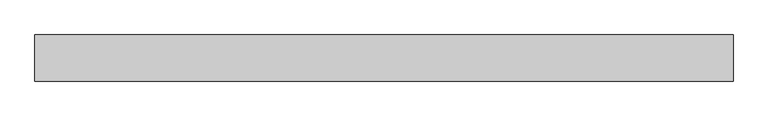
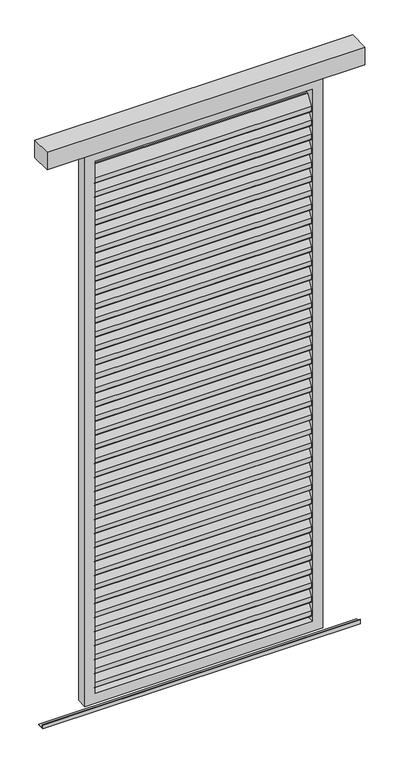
"""IFC4 building model written with IfcOpenShell, lengths in millimetres: proxy geometry."""

from ifc_helpers import new_model, si_unit, point, frame, frame_2d, origin, place, context, project, spatial, polyline, circle_curve, trimmed, segment, composite_curve, outline, extrude, source, transform, mapped, element, save


def generic_models_1648a54b(model_context):
    return source(origin(), model_context, "Body", "SweptSolid", [
        extrude(outline(polyline([(600.0, 46.0), (600.0, -34.0), (-600.0, -34.0), (-600.0, 46.0), (600.0, 46.0)])), frame((0.0, 0.0, 2250.0), z_axis=(0.0, 0.0, 1.0), x_axis=(1.0, 0.0, 0.0)), (0.0, 0.0, 1.0), 70.0),
        extrude(outline(composite_curve([segment(trimmed(circle_curve(frame_2d((12.6675921, 2173.678711)), 3.0), [point((10.1515804, 2175.3126281))], [point((15.6675921, 2173.678711))], False, "CARTESIAN"), True, "CONTINUOUS"), segment(polyline([(15.6675921, 2173.678711), (15.6675921, 2155.3179264)]), True, "CONTINUOUS"), segment(trimmed(circle_curve(frame_2d((12.6675921, 2155.3179264)), 3.0), [point((15.6675921, 2155.3179264))], [point((15.1836038, 2153.6840093))], False, "CARTESIAN"), True, "CONTINUOUS"), segment(polyline([(15.1836038, 2153.6840093), (-8.8163962, 2116.7272502)]), True, "CONTINUOUS"), segment(trimmed(circle_curve(frame_2d((-11.3324079, 2118.3611673)), 3.0), [point((-8.8163962, 2116.7272502))], [point((-14.3324079, 2118.3611673))], False, "CARTESIAN"), True, "CONTINUOUS"), segment(polyline([(-14.3324079, 2118.3611673), (-14.3324079, 2137.6105924), (10.1515804, 2175.3126281)]), True, "CONTINUOUS")], self_intersect=False)), frame((-410.0, 0.0, 0.0), z_axis=(1.0, 0.0, 0.0), x_axis=(0.0, 1.0, 0.0)), (0.0, 0.0, 1.0), 820.0),
        extrude(outline(composite_curve([segment(trimmed(circle_curve(frame_2d((12.6675921, 2117.7067127)), 3.0), [point((10.1515804, 2119.3406298))], [point((15.6675921, 2117.7067127))], False, "CARTESIAN"), True, "CONTINUOUS"), segment(polyline([(15.6675921, 2117.7067127), (15.6675921, 2099.3459282)]), True, "CONTINUOUS"), segment(trimmed(circle_curve(frame_2d((12.6675921, 2099.3459282)), 3.0), [point((15.6675921, 2099.3459282))], [point((15.1836038, 2097.7120111))], False, "CARTESIAN"), True, "CONTINUOUS"), segment(polyline([(15.1836038, 2097.7120111), (-8.8163962, 2060.7552519)]), True, "CONTINUOUS"), segment(trimmed(circle_curve(frame_2d((-11.3324079, 2062.389169)), 3.0), [point((-8.8163962, 2060.7552519))], [point((-14.3324079, 2062.389169))], False, "CARTESIAN"), True, "CONTINUOUS"), segment(polyline([(-14.3324079, 2062.389169), (-14.3324079, 2081.6385941), (10.1515804, 2119.3406298)]), True, "CONTINUOUS")], self_intersect=False)), frame((-410.0, 0.0, 0.0), z_axis=(1.0, 0.0, 0.0), x_axis=(0.0, 1.0, 0.0)), (0.0, 0.0, 1.0), 820.0),
        extrude(outline(composite_curve([segment(trimmed(circle_curve(frame_2d((12.6675921, 2061.7347145)), 3.0), [point((10.1515804, 2063.3686316))], [point((15.6675921, 2061.7347145))], False, "CARTESIAN"), True, "CONTINUOUS"), segment(polyline([(15.6675921, 2061.7347145), (15.6675921, 2043.3739299)]), True, "CONTINUOUS"), segment(trimmed(circle_curve(frame_2d((12.6675921, 2043.3739299)), 3.0), [point((15.6675921, 2043.3739299))], [point((15.1836038, 2041.7400128))], False, "CARTESIAN"), True, "CONTINUOUS"), segment(polyline([(15.1836038, 2041.7400128), (-8.8163962, 2004.7832537)]), True, "CONTINUOUS"), segment(trimmed(circle_curve(frame_2d((-11.3324079, 2006.4171708)), 3.0), [point((-8.8163962, 2004.7832537))], [point((-14.3324079, 2006.4171708))], False, "CARTESIAN"), True, "CONTINUOUS"), segment(polyline([(-14.3324079, 2006.4171708), (-14.3324079, 2025.6665958), (10.1515804, 2063.3686316)]), True, "CONTINUOUS")], self_intersect=False)), frame((-410.0, 0.0, 0.0), z_axis=(1.0, 0.0, 0.0), x_axis=(0.0, 1.0, 0.0)), (0.0, 0.0, 1.0), 820.0),
        extrude(outline(composite_curve([segment(trimmed(circle_curve(frame_2d((12.6675921, 2005.7627162)), 3.0), [point((10.1515804, 2007.3966333))], [point((15.6675921, 2005.7627162))], False, "CARTESIAN"), True, "CONTINUOUS"), segment(polyline([(15.6675921, 2005.7627162), (15.6675921, 1987.4019316)]), True, "CONTINUOUS"), segment(trimmed(circle_curve(frame_2d((12.6675921, 1987.4019316)), 3.0), [point((15.6675921, 1987.4019316))], [point((15.1836038, 1985.7680145))], False, "CARTESIAN"), True, "CONTINUOUS"), segment(polyline([(15.1836038, 1985.7680145), (-8.8163962, 1948.8112554)]), True, "CONTINUOUS"), segment(trimmed(circle_curve(frame_2d((-11.3324079, 1950.4451725)), 3.0), [point((-8.8163962, 1948.8112554))], [point((-14.3324079, 1950.4451725))], False, "CARTESIAN"), True, "CONTINUOUS"), segment(polyline([(-14.3324079, 1950.4451725), (-14.3324079, 1969.6945976), (10.1515804, 2007.3966333)]), True, "CONTINUOUS")], self_intersect=False)), frame((-410.0, 0.0, 0.0), z_axis=(1.0, 0.0, 0.0), x_axis=(0.0, 1.0, 0.0)), (0.0, 0.0, 1.0), 820.0),
        extrude(outline(composite_curve([segment(trimmed(circle_curve(frame_2d((12.6675921, 1949.790718)), 3.0), [point((10.1515804, 1951.4246351))], [point((15.6675921, 1949.790718))], False, "CARTESIAN"), True, "CONTINUOUS"), segment(polyline([(15.6675921, 1949.790718), (15.6675921, 1931.4299334)]), True, "CONTINUOUS"), segment(trimmed(circle_curve(frame_2d((12.6675921, 1931.4299334)), 3.0), [point((15.6675921, 1931.4299334))], [point((15.1836038, 1929.7960163))], False, "CARTESIAN"), True, "CONTINUOUS"), segment(polyline([(15.1836038, 1929.7960163), (-8.8163962, 1892.8392571)]), True, "CONTINUOUS"), segment(trimmed(circle_curve(frame_2d((-11.3324079, 1894.4731742)), 3.0), [point((-8.8163962, 1892.8392571))], [point((-14.3324079, 1894.4731742))], False, "CARTESIAN"), True, "CONTINUOUS"), segment(polyline([(-14.3324079, 1894.4731742), (-14.3324079, 1913.7225993), (10.1515804, 1951.4246351)]), True, "CONTINUOUS")], self_intersect=False)), frame((-410.0, 0.0, 0.0), z_axis=(1.0, 0.0, 0.0), x_axis=(0.0, 1.0, 0.0)), (0.0, 0.0, 1.0), 820.0),
        extrude(outline(composite_curve([segment(trimmed(circle_curve(frame_2d((12.6675921, 1893.8187197)), 3.0), [point((10.1515804, 1895.4526368))], [point((15.6675921, 1893.8187197))], False, "CARTESIAN"), True, "CONTINUOUS"), segment(polyline([(15.6675921, 1893.8187197), (15.6675921, 1875.4579351)]), True, "CONTINUOUS"), segment(trimmed(circle_curve(frame_2d((12.6675921, 1875.4579351)), 3.0), [point((15.6675921, 1875.4579351))], [point((15.1836038, 1873.824018))], False, "CARTESIAN"), True, "CONTINUOUS"), segment(polyline([(15.1836038, 1873.824018), (-8.8163962, 1836.8672589)]), True, "CONTINUOUS"), segment(trimmed(circle_curve(frame_2d((-11.3324079, 1838.501176)), 3.0), [point((-8.8163962, 1836.8672589))], [point((-14.3324079, 1838.501176))], False, "CARTESIAN"), True, "CONTINUOUS"), segment(polyline([(-14.3324079, 1838.501176), (-14.3324079, 1857.7506011), (10.1515804, 1895.4526368)]), True, "CONTINUOUS")], self_intersect=False)), frame((-410.0, 0.0, 0.0), z_axis=(1.0, 0.0, 0.0), x_axis=(0.0, 1.0, 0.0)), (0.0, 0.0, 1.0), 820.0),
        extrude(outline(composite_curve([segment(trimmed(circle_curve(frame_2d((12.6675921, 1837.8467214)), 3.0), [point((10.1515804, 1839.4806385))], [point((15.6675921, 1837.8467214))], False, "CARTESIAN"), True, "CONTINUOUS"), segment(polyline([(15.6675921, 1837.8467214), (15.6675921, 1819.4859368)]), True, "CONTINUOUS"), segment(trimmed(circle_curve(frame_2d((12.6675921, 1819.4859368)), 3.0), [point((15.6675921, 1819.4859368))], [point((15.1836038, 1817.8520197))], False, "CARTESIAN"), True, "CONTINUOUS"), segment(polyline([(15.1836038, 1817.8520197), (-8.8163962, 1780.8952606)]), True, "CONTINUOUS"), segment(trimmed(circle_curve(frame_2d((-11.3324079, 1782.5291777)), 3.0), [point((-8.8163962, 1780.8952606))], [point((-14.3324079, 1782.5291777))], False, "CARTESIAN"), True, "CONTINUOUS"), segment(polyline([(-14.3324079, 1782.5291777), (-14.3324079, 1801.7786028), (10.1515804, 1839.4806385)]), True, "CONTINUOUS")], self_intersect=False)), frame((-410.0, 0.0, 0.0), z_axis=(1.0, 0.0, 0.0), x_axis=(0.0, 1.0, 0.0)), (0.0, 0.0, 1.0), 820.0),
        extrude(outline(composite_curve([segment(trimmed(circle_curve(frame_2d((12.6675921, 1781.8747232)), 3.0), [point((10.1515804, 1783.5086403))], [point((15.6675921, 1781.8747232))], False, "CARTESIAN"), True, "CONTINUOUS"), segment(polyline([(15.6675921, 1781.8747232), (15.6675921, 1763.5139386)]), True, "CONTINUOUS"), segment(trimmed(circle_curve(frame_2d((12.6675921, 1763.5139386)), 3.0), [point((15.6675921, 1763.5139386))], [point((15.1836038, 1761.8800215))], False, "CARTESIAN"), True, "CONTINUOUS"), segment(polyline([(15.1836038, 1761.8800215), (-8.8163962, 1724.9232624)]), True, "CONTINUOUS"), segment(trimmed(circle_curve(frame_2d((-11.3324079, 1726.5571795)), 3.0), [point((-8.8163962, 1724.9232624))], [point((-14.3324079, 1726.5571795))], False, "CARTESIAN"), True, "CONTINUOUS"), segment(polyline([(-14.3324079, 1726.5571795), (-14.3324079, 1745.8066045), (10.1515804, 1783.5086403)]), True, "CONTINUOUS")], self_intersect=False)), frame((-410.0, 0.0, 0.0), z_axis=(1.0, 0.0, 0.0), x_axis=(0.0, 1.0, 0.0)), (0.0, 0.0, 1.0), 820.0),
        extrude(outline(composite_curve([segment(trimmed(circle_curve(frame_2d((12.6675921, 1725.9027249)), 3.0), [point((10.1515804, 1727.536642))], [point((15.6675921, 1725.9027249))], False, "CARTESIAN"), True, "CONTINUOUS"), segment(polyline([(15.6675921, 1725.9027249), (15.6675921, 1707.5419403)]), True, "CONTINUOUS"), segment(trimmed(circle_curve(frame_2d((12.6675921, 1707.5419403)), 3.0), [point((15.6675921, 1707.5419403))], [point((15.1836038, 1705.9080232))], False, "CARTESIAN"), True, "CONTINUOUS"), segment(polyline([(15.1836038, 1705.9080232), (-8.8163962, 1668.9512641)]), True, "CONTINUOUS"), segment(trimmed(circle_curve(frame_2d((-11.3324079, 1670.5851812)), 3.0), [point((-8.8163962, 1668.9512641))], [point((-14.3324079, 1670.5851812))], False, "CARTESIAN"), True, "CONTINUOUS"), segment(polyline([(-14.3324079, 1670.5851812), (-14.3324079, 1689.8346063), (10.1515804, 1727.536642)]), True, "CONTINUOUS")], self_intersect=False)), frame((-410.0, 0.0, 0.0), z_axis=(1.0, 0.0, 0.0), x_axis=(0.0, 1.0, 0.0)), (0.0, 0.0, 1.0), 820.0),
        extrude(outline(composite_curve([segment(trimmed(circle_curve(frame_2d((12.6675921, 1669.9307267)), 3.0), [point((10.1515804, 1671.5646438))], [point((15.6675921, 1669.9307267))], False, "CARTESIAN"), True, "CONTINUOUS"), segment(polyline([(15.6675921, 1669.9307267), (15.6675921, 1651.5699421)]), True, "CONTINUOUS"), segment(trimmed(circle_curve(frame_2d((12.6675921, 1651.5699421)), 3.0), [point((15.6675921, 1651.5699421))], [point((15.1836038, 1649.936025))], False, "CARTESIAN"), True, "CONTINUOUS"), segment(polyline([(15.1836038, 1649.936025), (-8.8163962, 1612.9792658)]), True, "CONTINUOUS"), segment(trimmed(circle_curve(frame_2d((-11.3324079, 1614.6131829)), 3.0), [point((-8.8163962, 1612.9792658))], [point((-14.3324079, 1614.6131829))], False, "CARTESIAN"), True, "CONTINUOUS"), segment(polyline([(-14.3324079, 1614.6131829), (-14.3324079, 1633.862608), (10.1515804, 1671.5646438)]), True, "CONTINUOUS")], self_intersect=False)), frame((-410.0, 0.0, 0.0), z_axis=(1.0, 0.0, 0.0), x_axis=(0.0, 1.0, 0.0)), (0.0, 0.0, 1.0), 820.0),
        extrude(outline(composite_curve([segment(trimmed(circle_curve(frame_2d((12.6675921, 1613.9587284)), 3.0), [point((10.1515804, 1615.5926455))], [point((15.6675921, 1613.9587284))], False, "CARTESIAN"), True, "CONTINUOUS"), segment(polyline([(15.6675921, 1613.9587284), (15.6675921, 1595.5979438)]), True, "CONTINUOUS"), segment(trimmed(circle_curve(frame_2d((12.6675921, 1595.5979438)), 3.0), [point((15.6675921, 1595.5979438))], [point((15.1836038, 1593.9640267))], False, "CARTESIAN"), True, "CONTINUOUS"), segment(polyline([(15.1836038, 1593.9640267), (-8.8163962, 1557.0072676)]), True, "CONTINUOUS"), segment(trimmed(circle_curve(frame_2d((-11.3324079, 1558.6411847)), 3.0), [point((-8.8163962, 1557.0072676))], [point((-14.3324079, 1558.6411847))], False, "CARTESIAN"), True, "CONTINUOUS"), segment(polyline([(-14.3324079, 1558.6411847), (-14.3324079, 1577.8906097), (10.1515804, 1615.5926455)]), True, "CONTINUOUS")], self_intersect=False)), frame((-410.0, 0.0, 0.0), z_axis=(1.0, 0.0, 0.0), x_axis=(0.0, 1.0, 0.0)), (0.0, 0.0, 1.0), 820.0),
        extrude(outline(composite_curve([segment(trimmed(circle_curve(frame_2d((12.6675921, 1557.9867301)), 3.0), [point((10.1515804, 1559.6206472))], [point((15.6675921, 1557.9867301))], False, "CARTESIAN"), True, "CONTINUOUS"), segment(polyline([(15.6675921, 1557.9867301), (15.6675921, 1539.6259455)]), True, "CONTINUOUS"), segment(trimmed(circle_curve(frame_2d((12.6675921, 1539.6259455)), 3.0), [point((15.6675921, 1539.6259455))], [point((15.1836038, 1537.9920284))], False, "CARTESIAN"), True, "CONTINUOUS"), segment(polyline([(15.1836038, 1537.9920284), (-8.8163962, 1501.0352693)]), True, "CONTINUOUS"), segment(trimmed(circle_curve(frame_2d((-11.3324079, 1502.6691864)), 3.0), [point((-8.8163962, 1501.0352693))], [point((-14.3324079, 1502.6691864))], False, "CARTESIAN"), True, "CONTINUOUS"), segment(polyline([(-14.3324079, 1502.6691864), (-14.3324079, 1521.9186115), (10.1515804, 1559.6206472)]), True, "CONTINUOUS")], self_intersect=False)), frame((-410.0, 0.0, 0.0), z_axis=(1.0, 0.0, 0.0), x_axis=(0.0, 1.0, 0.0)), (0.0, 0.0, 1.0), 820.0),
        extrude(outline(composite_curve([segment(trimmed(circle_curve(frame_2d((12.6675921, 1502.0147319)), 3.0), [point((10.1515804, 1503.648649))], [point((15.6675921, 1502.0147319))], False, "CARTESIAN"), True, "CONTINUOUS"), segment(polyline([(15.6675921, 1502.0147319), (15.6675921, 1483.6539473)]), True, "CONTINUOUS"), segment(trimmed(circle_curve(frame_2d((12.6675921, 1483.6539473)), 3.0), [point((15.6675921, 1483.6539473))], [point((15.1836038, 1482.0200302))], False, "CARTESIAN"), True, "CONTINUOUS"), segment(polyline([(15.1836038, 1482.0200302), (-8.8163962, 1445.063271)]), True, "CONTINUOUS"), segment(trimmed(circle_curve(frame_2d((-11.3324079, 1446.6971881)), 3.0), [point((-8.8163962, 1445.063271))], [point((-14.3324079, 1446.6971881))], False, "CARTESIAN"), True, "CONTINUOUS"), segment(polyline([(-14.3324079, 1446.6971881), (-14.3324079, 1465.9466132), (10.1515804, 1503.648649)]), True, "CONTINUOUS")], self_intersect=False)), frame((-410.0, 0.0, 0.0), z_axis=(1.0, 0.0, 0.0), x_axis=(0.0, 1.0, 0.0)), (0.0, 0.0, 1.0), 820.0),
        extrude(outline(composite_curve([segment(trimmed(circle_curve(frame_2d((12.6675921, 1446.0427336)), 3.0), [point((10.1515804, 1447.6766507))], [point((15.6675921, 1446.0427336))], False, "CARTESIAN"), True, "CONTINUOUS"), segment(polyline([(15.6675921, 1446.0427336), (15.6675921, 1427.681949)]), True, "CONTINUOUS"), segment(trimmed(circle_curve(frame_2d((12.6675921, 1427.681949)), 3.0), [point((15.6675921, 1427.681949))], [point((15.1836038, 1426.0480319))], False, "CARTESIAN"), True, "CONTINUOUS"), segment(polyline([(15.1836038, 1426.0480319), (-8.8163962, 1389.0912728)]), True, "CONTINUOUS"), segment(trimmed(circle_curve(frame_2d((-11.3324079, 1390.7251899)), 3.0), [point((-8.8163962, 1389.0912728))], [point((-14.3324079, 1390.7251899))], False, "CARTESIAN"), True, "CONTINUOUS"), segment(polyline([(-14.3324079, 1390.7251899), (-14.3324079, 1409.974615), (10.1515804, 1447.6766507)]), True, "CONTINUOUS")], self_intersect=False)), frame((-410.0, 0.0, 0.0), z_axis=(1.0, 0.0, 0.0), x_axis=(0.0, 1.0, 0.0)), (0.0, 0.0, 1.0), 820.0),
        extrude(outline(composite_curve([segment(trimmed(circle_curve(frame_2d((12.6675921, 1390.0707353)), 3.0), [point((10.1515804, 1391.7046525))], [point((15.6675921, 1390.0707353))], False, "CARTESIAN"), True, "CONTINUOUS"), segment(polyline([(15.6675921, 1390.0707353), (15.6675921, 1371.7099508)]), True, "CONTINUOUS"), segment(trimmed(circle_curve(frame_2d((12.6675921, 1371.7099508)), 3.0), [point((15.6675921, 1371.7099508))], [point((15.1836038, 1370.0760337))], False, "CARTESIAN"), True, "CONTINUOUS"), segment(polyline([(15.1836038, 1370.0760337), (-8.8163962, 1333.1192745)]), True, "CONTINUOUS"), segment(trimmed(circle_curve(frame_2d((-11.3324079, 1334.7531916)), 3.0), [point((-8.8163962, 1333.1192745))], [point((-14.3324079, 1334.7531916))], False, "CARTESIAN"), True, "CONTINUOUS"), segment(polyline([(-14.3324079, 1334.7531916), (-14.3324079, 1354.0026167), (10.1515804, 1391.7046525)]), True, "CONTINUOUS")], self_intersect=False)), frame((-410.0, 0.0, 0.0), z_axis=(1.0, 0.0, 0.0), x_axis=(0.0, 1.0, 0.0)), (0.0, 0.0, 1.0), 820.0),
        extrude(outline(composite_curve([segment(trimmed(circle_curve(frame_2d((12.6675921, 1334.0987371)), 3.0), [point((10.1515804, 1335.7326542))], [point((15.6675921, 1334.0987371))], False, "CARTESIAN"), True, "CONTINUOUS"), segment(polyline([(15.6675921, 1334.0987371), (15.6675921, 1315.7379525)]), True, "CONTINUOUS"), segment(trimmed(circle_curve(frame_2d((12.6675921, 1315.7379525)), 3.0), [point((15.6675921, 1315.7379525))], [point((15.1836038, 1314.1040354))], False, "CARTESIAN"), True, "CONTINUOUS"), segment(polyline([(15.1836038, 1314.1040354), (-8.8163962, 1277.1472763)]), True, "CONTINUOUS"), segment(trimmed(circle_curve(frame_2d((-11.3324079, 1278.7811934)), 3.0), [point((-8.8163962, 1277.1472763))], [point((-14.3324079, 1278.7811934))], False, "CARTESIAN"), True, "CONTINUOUS"), segment(polyline([(-14.3324079, 1278.7811934), (-14.3324079, 1298.0306184), (10.1515804, 1335.7326542)]), True, "CONTINUOUS")], self_intersect=False)), frame((-410.0, 0.0, 0.0), z_axis=(1.0, 0.0, 0.0), x_axis=(0.0, 1.0, 0.0)), (0.0, 0.0, 1.0), 820.0),
        extrude(outline(composite_curve([segment(trimmed(circle_curve(frame_2d((12.6675921, 1278.1267388)), 3.0), [point((10.1515804, 1279.7606559))], [point((15.6675921, 1278.1267388))], False, "CARTESIAN"), True, "CONTINUOUS"), segment(polyline([(15.6675921, 1278.1267388), (15.6675921, 1259.7659542)]), True, "CONTINUOUS"), segment(trimmed(circle_curve(frame_2d((12.6675921, 1259.7659542)), 3.0), [point((15.6675921, 1259.7659542))], [point((15.1836038, 1258.1320371))], False, "CARTESIAN"), True, "CONTINUOUS"), segment(polyline([(15.1836038, 1258.1320371), (-8.8163962, 1221.175278)]), True, "CONTINUOUS"), segment(trimmed(circle_curve(frame_2d((-11.3324079, 1222.8091951)), 3.0), [point((-8.8163962, 1221.175278))], [point((-14.3324079, 1222.8091951))], False, "CARTESIAN"), True, "CONTINUOUS"), segment(polyline([(-14.3324079, 1222.8091951), (-14.3324079, 1242.0586202), (10.1515804, 1279.7606559)]), True, "CONTINUOUS")], self_intersect=False)), frame((-410.0, 0.0, 0.0), z_axis=(1.0, 0.0, 0.0), x_axis=(0.0, 1.0, 0.0)), (0.0, 0.0, 1.0), 820.0),
        extrude(outline(composite_curve([segment(trimmed(circle_curve(frame_2d((12.6675921, 1222.1547406)), 3.0), [point((10.1515804, 1223.7886577))], [point((15.6675921, 1222.1547406))], False, "CARTESIAN"), True, "CONTINUOUS"), segment(polyline([(15.6675921, 1222.1547406), (15.6675921, 1203.793956)]), True, "CONTINUOUS"), segment(trimmed(circle_curve(frame_2d((12.6675921, 1203.793956)), 3.0), [point((15.6675921, 1203.793956))], [point((15.1836038, 1202.1600389))], False, "CARTESIAN"), True, "CONTINUOUS"), segment(polyline([(15.1836038, 1202.1600389), (-8.8163962, 1165.2032797)]), True, "CONTINUOUS"), segment(trimmed(circle_curve(frame_2d((-11.3324079, 1166.8371968)), 3.0), [point((-8.8163962, 1165.2032797))], [point((-14.3324079, 1166.8371968))], False, "CARTESIAN"), True, "CONTINUOUS"), segment(polyline([(-14.3324079, 1166.8371968), (-14.3324079, 1186.0866219), (10.1515804, 1223.7886577)]), True, "CONTINUOUS")], self_intersect=False)), frame((-410.0, 0.0, 0.0), z_axis=(1.0, 0.0, 0.0), x_axis=(0.0, 1.0, 0.0)), (0.0, 0.0, 1.0), 820.0),
        extrude(outline(composite_curve([segment(trimmed(circle_curve(frame_2d((12.6675921, 1166.1827423)), 3.0), [point((10.1515804, 1167.8166594))], [point((15.6675921, 1166.1827423))], False, "CARTESIAN"), True, "CONTINUOUS"), segment(polyline([(15.6675921, 1166.1827423), (15.6675921, 1147.8219577)]), True, "CONTINUOUS"), segment(trimmed(circle_curve(frame_2d((12.6675921, 1147.8219577)), 3.0), [point((15.6675921, 1147.8219577))], [point((15.1836038, 1146.1880406))], False, "CARTESIAN"), True, "CONTINUOUS"), segment(polyline([(15.1836038, 1146.1880406), (-8.8163962, 1109.2312815)]), True, "CONTINUOUS"), segment(trimmed(circle_curve(frame_2d((-11.3324079, 1110.8651986)), 3.0), [point((-8.8163962, 1109.2312815))], [point((-14.3324079, 1110.8651986))], False, "CARTESIAN"), True, "CONTINUOUS"), segment(polyline([(-14.3324079, 1110.8651986), (-14.3324079, 1130.1146237), (10.1515804, 1167.8166594)]), True, "CONTINUOUS")], self_intersect=False)), frame((-410.0, 0.0, 0.0), z_axis=(1.0, 0.0, 0.0), x_axis=(0.0, 1.0, 0.0)), (0.0, 0.0, 1.0), 820.0),
        extrude(outline(composite_curve([segment(trimmed(circle_curve(frame_2d((12.6675921, 1110.210744)), 3.0), [point((10.1515804, 1111.8446611))], [point((15.6675921, 1110.210744))], False, "CARTESIAN"), True, "CONTINUOUS"), segment(polyline([(15.6675921, 1110.210744), (15.6675921, 1091.8499595)]), True, "CONTINUOUS"), segment(trimmed(circle_curve(frame_2d((12.6675921, 1091.8499595)), 3.0), [point((15.6675921, 1091.8499595))], [point((15.1836038, 1090.2160423))], False, "CARTESIAN"), True, "CONTINUOUS"), segment(polyline([(15.1836038, 1090.2160423), (-8.8163962, 1053.2592832)]), True, "CONTINUOUS"), segment(trimmed(circle_curve(frame_2d((-11.3324079, 1054.8932003)), 3.0), [point((-8.8163962, 1053.2592832))], [point((-14.3324079, 1054.8932003))], False, "CARTESIAN"), True, "CONTINUOUS"), segment(polyline([(-14.3324079, 1054.8932003), (-14.3324079, 1074.1426254), (10.1515804, 1111.8446611)]), True, "CONTINUOUS")], self_intersect=False)), frame((-410.0, 0.0, 0.0), z_axis=(1.0, 0.0, 0.0), x_axis=(0.0, 1.0, 0.0)), (0.0, 0.0, 1.0), 820.0),
        extrude(outline(composite_curve([segment(trimmed(circle_curve(frame_2d((12.6675921, 1054.2387458)), 3.0), [point((10.1515804, 1055.8726629))], [point((15.6675921, 1054.2387458))], False, "CARTESIAN"), True, "CONTINUOUS"), segment(polyline([(15.6675921, 1054.2387458), (15.6675921, 1035.8779612)]), True, "CONTINUOUS"), segment(trimmed(circle_curve(frame_2d((12.6675921, 1035.8779612)), 3.0), [point((15.6675921, 1035.8779612))], [point((15.1836038, 1034.2440441))], False, "CARTESIAN"), True, "CONTINUOUS"), segment(polyline([(15.1836038, 1034.2440441), (-8.8163962, 997.287285)]), True, "CONTINUOUS"), segment(trimmed(circle_curve(frame_2d((-11.3324079, 998.9212021)), 3.0), [point((-8.8163962, 997.287285))], [point((-14.3324079, 998.9212021))], False, "CARTESIAN"), True, "CONTINUOUS"), segment(polyline([(-14.3324079, 998.9212021), (-14.3324079, 1018.1706271), (10.1515804, 1055.8726629)]), True, "CONTINUOUS")], self_intersect=False)), frame((-410.0, 0.0, 0.0), z_axis=(1.0, 0.0, 0.0), x_axis=(0.0, 1.0, 0.0)), (0.0, 0.0, 1.0), 820.0),
        extrude(outline(composite_curve([segment(trimmed(circle_curve(frame_2d((12.6675921, 998.2667475)), 3.0), [point((10.1515804, 999.9006646))], [point((15.6675921, 998.2667475))], False, "CARTESIAN"), True, "CONTINUOUS"), segment(polyline([(15.6675921, 998.2667475), (15.6675921, 979.9059629)]), True, "CONTINUOUS"), segment(trimmed(circle_curve(frame_2d((12.6675921, 979.9059629)), 3.0), [point((15.6675921, 979.9059629))], [point((15.1836038, 978.2720458))], False, "CARTESIAN"), True, "CONTINUOUS"), segment(polyline([(15.1836038, 978.2720458), (-8.8163962, 941.3152867)]), True, "CONTINUOUS"), segment(trimmed(circle_curve(frame_2d((-11.3324079, 942.9492038)), 3.0), [point((-8.8163962, 941.3152867))], [point((-14.3324079, 942.9492038))], False, "CARTESIAN"), True, "CONTINUOUS"), segment(polyline([(-14.3324079, 942.9492038), (-14.3324079, 962.1986289), (10.1515804, 999.9006646)]), True, "CONTINUOUS")], self_intersect=False)), frame((-410.0, 0.0, 0.0), z_axis=(1.0, 0.0, 0.0), x_axis=(0.0, 1.0, 0.0)), (0.0, 0.0, 1.0), 820.0),
        extrude(outline(composite_curve([segment(trimmed(circle_curve(frame_2d((12.6675921, 942.2947493)), 3.0), [point((10.1515804, 943.9286664))], [point((15.6675921, 942.2947493))], False, "CARTESIAN"), True, "CONTINUOUS"), segment(polyline([(15.6675921, 942.2947493), (15.6675921, 923.9339647)]), True, "CONTINUOUS"), segment(trimmed(circle_curve(frame_2d((12.6675921, 923.9339647)), 3.0), [point((15.6675921, 923.9339647))], [point((15.1836038, 922.3000476))], False, "CARTESIAN"), True, "CONTINUOUS"), segment(polyline([(15.1836038, 922.3000476), (-8.8163962, 885.3432884)]), True, "CONTINUOUS"), segment(trimmed(circle_curve(frame_2d((-11.3324079, 886.9772055)), 3.0), [point((-8.8163962, 885.3432884))], [point((-14.3324079, 886.9772055))], False, "CARTESIAN"), True, "CONTINUOUS"), segment(polyline([(-14.3324079, 886.9772055), (-14.3324079, 906.2266306), (10.1515804, 943.9286664)]), True, "CONTINUOUS")], self_intersect=False)), frame((-410.0, 0.0, 0.0), z_axis=(1.0, 0.0, 0.0), x_axis=(0.0, 1.0, 0.0)), (0.0, 0.0, 1.0), 820.0),
        extrude(outline(composite_curve([segment(trimmed(circle_curve(frame_2d((12.6675921, 886.322751)), 3.0), [point((10.1515804, 887.9566681))], [point((15.6675921, 886.322751))], False, "CARTESIAN"), True, "CONTINUOUS"), segment(polyline([(15.6675921, 886.322751), (15.6675921, 867.9619664)]), True, "CONTINUOUS"), segment(trimmed(circle_curve(frame_2d((12.6675921, 867.9619664)), 3.0), [point((15.6675921, 867.9619664))], [point((15.1836038, 866.3280493))], False, "CARTESIAN"), True, "CONTINUOUS"), segment(polyline([(15.1836038, 866.3280493), (-8.8163962, 829.3712902)]), True, "CONTINUOUS"), segment(trimmed(circle_curve(frame_2d((-11.3324079, 831.0052073)), 3.0), [point((-8.8163962, 829.3712902))], [point((-14.3324079, 831.0052073))], False, "CARTESIAN"), True, "CONTINUOUS"), segment(polyline([(-14.3324079, 831.0052073), (-14.3324079, 850.2546323), (10.1515804, 887.9566681)]), True, "CONTINUOUS")], self_intersect=False)), frame((-410.0, 0.0, 0.0), z_axis=(1.0, 0.0, 0.0), x_axis=(0.0, 1.0, 0.0)), (0.0, 0.0, 1.0), 820.0),
        extrude(outline(composite_curve([segment(trimmed(circle_curve(frame_2d((12.6675921, 830.3507527)), 3.0), [point((10.1515804, 831.9846698))], [point((15.6675921, 830.3507527))], False, "CARTESIAN"), True, "CONTINUOUS"), segment(polyline([(15.6675921, 830.3507527), (15.6675921, 811.9899681)]), True, "CONTINUOUS"), segment(trimmed(circle_curve(frame_2d((12.6675921, 811.9899681)), 3.0), [point((15.6675921, 811.9899681))], [point((15.1836038, 810.356051))], False, "CARTESIAN"), True, "CONTINUOUS"), segment(polyline([(15.1836038, 810.356051), (-8.8163962, 773.3992919)]), True, "CONTINUOUS"), segment(trimmed(circle_curve(frame_2d((-11.3324079, 775.033209)), 3.0), [point((-8.8163962, 773.3992919))], [point((-14.3324079, 775.033209))], False, "CARTESIAN"), True, "CONTINUOUS"), segment(polyline([(-14.3324079, 775.033209), (-14.3324079, 794.2826341), (10.1515804, 831.9846698)]), True, "CONTINUOUS")], self_intersect=False)), frame((-410.0, 0.0, 0.0), z_axis=(1.0, 0.0, 0.0), x_axis=(0.0, 1.0, 0.0)), (0.0, 0.0, 1.0), 820.0),
        extrude(outline(composite_curve([segment(trimmed(circle_curve(frame_2d((12.6675921, 774.3787545)), 3.0), [point((10.1515804, 776.0126716))], [point((15.6675921, 774.3787545))], False, "CARTESIAN"), True, "CONTINUOUS"), segment(polyline([(15.6675921, 774.3787545), (15.6675921, 756.0179699)]), True, "CONTINUOUS"), segment(trimmed(circle_curve(frame_2d((12.6675921, 756.0179699)), 3.0), [point((15.6675921, 756.0179699))], [point((15.1836038, 754.3840528))], False, "CARTESIAN"), True, "CONTINUOUS"), segment(polyline([(15.1836038, 754.3840528), (-8.8163962, 717.4272936)]), True, "CONTINUOUS"), segment(trimmed(circle_curve(frame_2d((-11.3324079, 719.0612108)), 3.0), [point((-8.8163962, 717.4272936))], [point((-14.3324079, 719.0612108))], False, "CARTESIAN"), True, "CONTINUOUS"), segment(polyline([(-14.3324079, 719.0612108), (-14.3324079, 738.3106358), (10.1515804, 776.0126716)]), True, "CONTINUOUS")], self_intersect=False)), frame((-410.0, 0.0, 0.0), z_axis=(1.0, 0.0, 0.0), x_axis=(0.0, 1.0, 0.0)), (0.0, 0.0, 1.0), 820.0),
        extrude(outline(composite_curve([segment(trimmed(circle_curve(frame_2d((12.6675921, 718.4067562)), 3.0), [point((10.1515804, 720.0406733))], [point((15.6675921, 718.4067562))], False, "CARTESIAN"), True, "CONTINUOUS"), segment(polyline([(15.6675921, 718.4067562), (15.6675921, 700.0459716)]), True, "CONTINUOUS"), segment(trimmed(circle_curve(frame_2d((12.6675921, 700.0459716)), 3.0), [point((15.6675921, 700.0459716))], [point((15.1836038, 698.4120545))], False, "CARTESIAN"), True, "CONTINUOUS"), segment(polyline([(15.1836038, 698.4120545), (-8.8163962, 661.4552954)]), True, "CONTINUOUS"), segment(trimmed(circle_curve(frame_2d((-11.3324079, 663.0892125)), 3.0), [point((-8.8163962, 661.4552954))], [point((-14.3324079, 663.0892125))], False, "CARTESIAN"), True, "CONTINUOUS"), segment(polyline([(-14.3324079, 663.0892125), (-14.3324079, 682.3386376), (10.1515804, 720.0406733)]), True, "CONTINUOUS")], self_intersect=False)), frame((-410.0, 0.0, 0.0), z_axis=(1.0, 0.0, 0.0), x_axis=(0.0, 1.0, 0.0)), (0.0, 0.0, 1.0), 820.0),
        extrude(outline(composite_curve([segment(trimmed(circle_curve(frame_2d((12.6675921, 662.4347579)), 3.0), [point((10.1515804, 664.0686751))], [point((15.6675921, 662.4347579))], False, "CARTESIAN"), True, "CONTINUOUS"), segment(polyline([(15.6675921, 662.4347579), (15.6675921, 644.0739734)]), True, "CONTINUOUS"), segment(trimmed(circle_curve(frame_2d((12.6675921, 644.0739734)), 3.0), [point((15.6675921, 644.0739734))], [point((15.1836038, 642.4400563))], False, "CARTESIAN"), True, "CONTINUOUS"), segment(polyline([(15.1836038, 642.4400563), (-8.8163962, 605.4832971)]), True, "CONTINUOUS"), segment(trimmed(circle_curve(frame_2d((-11.3324079, 607.1172142)), 3.0), [point((-8.8163962, 605.4832971))], [point((-14.3324079, 607.1172142))], False, "CARTESIAN"), True, "CONTINUOUS"), segment(polyline([(-14.3324079, 607.1172142), (-14.3324079, 626.3666393), (10.1515804, 664.0686751)]), True, "CONTINUOUS")], self_intersect=False)), frame((-410.0, 0.0, 0.0), z_axis=(1.0, 0.0, 0.0), x_axis=(0.0, 1.0, 0.0)), (0.0, 0.0, 1.0), 820.0),
        extrude(outline(composite_curve([segment(trimmed(circle_curve(frame_2d((12.6675921, 606.4627597)), 3.0), [point((10.1515804, 608.0966768))], [point((15.6675921, 606.4627597))], False, "CARTESIAN"), True, "CONTINUOUS"), segment(polyline([(15.6675921, 606.4627597), (15.6675921, 588.1019751)]), True, "CONTINUOUS"), segment(trimmed(circle_curve(frame_2d((12.6675921, 588.1019751)), 3.0), [point((15.6675921, 588.1019751))], [point((15.1836038, 586.468058))], False, "CARTESIAN"), True, "CONTINUOUS"), segment(polyline([(15.1836038, 586.468058), (-8.8163962, 549.5112989)]), True, "CONTINUOUS"), segment(trimmed(circle_curve(frame_2d((-11.3324079, 551.145216)), 3.0), [point((-8.8163962, 549.5112989))], [point((-14.3324079, 551.145216))], False, "CARTESIAN"), True, "CONTINUOUS"), segment(polyline([(-14.3324079, 551.145216), (-14.3324079, 570.394641), (10.1515804, 608.0966768)]), True, "CONTINUOUS")], self_intersect=False)), frame((-410.0, 0.0, 0.0), z_axis=(1.0, 0.0, 0.0), x_axis=(0.0, 1.0, 0.0)), (0.0, 0.0, 1.0), 820.0),
        extrude(outline(composite_curve([segment(trimmed(circle_curve(frame_2d((12.6675921, 550.4907614)), 3.0), [point((10.1515804, 552.1246785))], [point((15.6675921, 550.4907614))], False, "CARTESIAN"), True, "CONTINUOUS"), segment(polyline([(15.6675921, 550.4907614), (15.6675921, 532.1299768)]), True, "CONTINUOUS"), segment(trimmed(circle_curve(frame_2d((12.6675921, 532.1299768)), 3.0), [point((15.6675921, 532.1299768))], [point((15.1836038, 530.4960597))], False, "CARTESIAN"), True, "CONTINUOUS"), segment(polyline([(15.1836038, 530.4960597), (-8.8163962, 493.5393006)]), True, "CONTINUOUS"), segment(trimmed(circle_curve(frame_2d((-11.3324079, 495.1732177)), 3.0), [point((-8.8163962, 493.5393006))], [point((-14.3324079, 495.1732177))], False, "CARTESIAN"), True, "CONTINUOUS"), segment(polyline([(-14.3324079, 495.1732177), (-14.3324079, 514.4226428), (10.1515804, 552.1246785)]), True, "CONTINUOUS")], self_intersect=False)), frame((-410.0, 0.0, 0.0), z_axis=(1.0, 0.0, 0.0), x_axis=(0.0, 1.0, 0.0)), (0.0, 0.0, 1.0), 820.0),
        extrude(outline(composite_curve([segment(trimmed(circle_curve(frame_2d((12.6675921, 494.5187632)), 3.0), [point((10.1515804, 496.1526803))], [point((15.6675921, 494.5187632))], False, "CARTESIAN"), True, "CONTINUOUS"), segment(polyline([(15.6675921, 494.5187632), (15.6675921, 476.1579786)]), True, "CONTINUOUS"), segment(trimmed(circle_curve(frame_2d((12.6675921, 476.1579786)), 3.0), [point((15.6675921, 476.1579786))], [point((15.1836038, 474.5240615))], False, "CARTESIAN"), True, "CONTINUOUS"), segment(polyline([(15.1836038, 474.5240615), (-8.8163962, 437.5673023)]), True, "CONTINUOUS"), segment(trimmed(circle_curve(frame_2d((-11.3324079, 439.2012194)), 3.0), [point((-8.8163962, 437.5673023))], [point((-14.3324079, 439.2012194))], False, "CARTESIAN"), True, "CONTINUOUS"), segment(polyline([(-14.3324079, 439.2012194), (-14.3324079, 458.4506445), (10.1515804, 496.1526803)]), True, "CONTINUOUS")], self_intersect=False)), frame((-410.0, 0.0, 0.0), z_axis=(1.0, 0.0, 0.0), x_axis=(0.0, 1.0, 0.0)), (0.0, 0.0, 1.0), 820.0),
        extrude(outline(composite_curve([segment(trimmed(circle_curve(frame_2d((12.6675921, 438.5467649)), 3.0), [point((10.1515804, 440.180682))], [point((15.6675921, 438.5467649))], False, "CARTESIAN"), True, "CONTINUOUS"), segment(polyline([(15.6675921, 438.5467649), (15.6675921, 420.1859803)]), True, "CONTINUOUS"), segment(trimmed(circle_curve(frame_2d((12.6675921, 420.1859803)), 3.0), [point((15.6675921, 420.1859803))], [point((15.1836038, 418.5520632))], False, "CARTESIAN"), True, "CONTINUOUS"), segment(polyline([(15.1836038, 418.5520632), (-8.8163962, 381.5953041)]), True, "CONTINUOUS"), segment(trimmed(circle_curve(frame_2d((-11.3324079, 383.2292212)), 3.0), [point((-8.8163962, 381.5953041))], [point((-14.3324079, 383.2292212))], False, "CARTESIAN"), True, "CONTINUOUS"), segment(polyline([(-14.3324079, 383.2292212), (-14.3324079, 402.4786463), (10.1515804, 440.180682)]), True, "CONTINUOUS")], self_intersect=False)), frame((-410.0, 0.0, 0.0), z_axis=(1.0, 0.0, 0.0), x_axis=(0.0, 1.0, 0.0)), (0.0, 0.0, 1.0), 820.0),
        extrude(outline(composite_curve([segment(trimmed(circle_curve(frame_2d((12.6675921, 382.5747666)), 3.0), [point((10.1515804, 384.2086837))], [point((15.6675921, 382.5747666))], False, "CARTESIAN"), True, "CONTINUOUS"), segment(polyline([(15.6675921, 382.5747666), (15.6675921, 364.2139821)]), True, "CONTINUOUS"), segment(trimmed(circle_curve(frame_2d((12.6675921, 364.2139821)), 3.0), [point((15.6675921, 364.2139821))], [point((15.1836038, 362.580065))], False, "CARTESIAN"), True, "CONTINUOUS"), segment(polyline([(15.1836038, 362.580065), (-8.8163962, 325.6233058)]), True, "CONTINUOUS"), segment(trimmed(circle_curve(frame_2d((-11.3324079, 327.2572229)), 3.0), [point((-8.8163962, 325.6233058))], [point((-14.3324079, 327.2572229))], False, "CARTESIAN"), True, "CONTINUOUS"), segment(polyline([(-14.3324079, 327.2572229), (-14.3324079, 346.506648), (10.1515804, 384.2086837)]), True, "CONTINUOUS")], self_intersect=False)), frame((-410.0, 0.0, 0.0), z_axis=(1.0, 0.0, 0.0), x_axis=(0.0, 1.0, 0.0)), (0.0, 0.0, 1.0), 820.0),
        extrude(outline(composite_curve([segment(trimmed(circle_curve(frame_2d((12.6675921, 326.6027684)), 3.0), [point((10.1515804, 328.2366855))], [point((15.6675921, 326.6027684))], False, "CARTESIAN"), True, "CONTINUOUS"), segment(polyline([(15.6675921, 326.6027684), (15.6675921, 308.2419838)]), True, "CONTINUOUS"), segment(trimmed(circle_curve(frame_2d((12.6675921, 308.2419838)), 3.0), [point((15.6675921, 308.2419838))], [point((15.1836038, 306.6080667))], False, "CARTESIAN"), True, "CONTINUOUS"), segment(polyline([(15.1836038, 306.6080667), (-8.8163962, 269.6513076)]), True, "CONTINUOUS"), segment(trimmed(circle_curve(frame_2d((-11.3324079, 271.2852247)), 3.0), [point((-8.8163962, 269.6513076))], [point((-14.3324079, 271.2852247))], False, "CARTESIAN"), True, "CONTINUOUS"), segment(polyline([(-14.3324079, 271.2852247), (-14.3324079, 290.5346497), (10.1515804, 328.2366855)]), True, "CONTINUOUS")], self_intersect=False)), frame((-410.0, 0.0, 0.0), z_axis=(1.0, 0.0, 0.0), x_axis=(0.0, 1.0, 0.0)), (0.0, 0.0, 1.0), 820.0),
        extrude(outline(composite_curve([segment(trimmed(circle_curve(frame_2d((12.6675921, 270.6307701)), 3.0), [point((10.1515804, 272.2646872))], [point((15.6675921, 270.6307701))], False, "CARTESIAN"), True, "CONTINUOUS"), segment(polyline([(15.6675921, 270.6307701), (15.6675921, 252.2699855)]), True, "CONTINUOUS"), segment(trimmed(circle_curve(frame_2d((12.6675921, 252.2699855)), 3.0), [point((15.6675921, 252.2699855))], [point((15.1836038, 250.6360684))], False, "CARTESIAN"), True, "CONTINUOUS"), segment(polyline([(15.1836038, 250.6360684), (-8.8163962, 213.6793093)]), True, "CONTINUOUS"), segment(trimmed(circle_curve(frame_2d((-11.3324079, 215.3132264)), 3.0), [point((-8.8163962, 213.6793093))], [point((-14.3324079, 215.3132264))], False, "CARTESIAN"), True, "CONTINUOUS"), segment(polyline([(-14.3324079, 215.3132264), (-14.3324079, 234.5626515), (10.1515804, 272.2646872)]), True, "CONTINUOUS")], self_intersect=False)), frame((-410.0, 0.0, 0.0), z_axis=(1.0, 0.0, 0.0), x_axis=(0.0, 1.0, 0.0)), (0.0, 0.0, 1.0), 820.0),
        extrude(outline(composite_curve([segment(trimmed(circle_curve(frame_2d((12.6675921, 214.6587719)), 3.0), [point((10.1515804, 216.292689))], [point((15.6675921, 214.6587719))], False, "CARTESIAN"), True, "CONTINUOUS"), segment(polyline([(15.6675921, 214.6587719), (15.6675921, 196.2979873)]), True, "CONTINUOUS"), segment(trimmed(circle_curve(frame_2d((12.6675921, 196.2979873)), 3.0), [point((15.6675921, 196.2979873))], [point((15.1836038, 194.6640702))], False, "CARTESIAN"), True, "CONTINUOUS"), segment(polyline([(15.1836038, 194.6640702), (-8.8163962, 157.707311)]), True, "CONTINUOUS"), segment(trimmed(circle_curve(frame_2d((-11.3324079, 159.3412281)), 3.0), [point((-8.8163962, 157.707311))], [point((-14.3324079, 159.3412281))], False, "CARTESIAN"), True, "CONTINUOUS"), segment(polyline([(-14.3324079, 159.3412281), (-14.3324079, 178.5906532), (10.1515804, 216.292689)]), True, "CONTINUOUS")], self_intersect=False)), frame((-410.0, 0.0, 0.0), z_axis=(1.0, 0.0, 0.0), x_axis=(0.0, 1.0, 0.0)), (0.0, 0.0, 1.0), 820.0),
        extrude(outline(composite_curve([segment(trimmed(circle_curve(frame_2d((12.6675921, 158.6867736)), 3.0), [point((10.1515804, 160.3206907))], [point((15.6675921, 158.6867736))], False, "CARTESIAN"), True, "CONTINUOUS"), segment(polyline([(15.6675921, 158.6867736), (15.6675921, 140.325989)]), True, "CONTINUOUS"), segment(trimmed(circle_curve(frame_2d((12.6675921, 140.325989)), 3.0), [point((15.6675921, 140.325989))], [point((15.1836038, 138.6920719))], False, "CARTESIAN"), True, "CONTINUOUS"), segment(polyline([(15.1836038, 138.6920719), (-8.8163962, 101.7353128)]), True, "CONTINUOUS"), segment(trimmed(circle_curve(frame_2d((-11.3324079, 103.3692299)), 3.0), [point((-8.8163962, 101.7353128))], [point((-14.3324079, 103.3692299))], False, "CARTESIAN"), True, "CONTINUOUS"), segment(polyline([(-14.3324079, 103.3692299), (-14.3324079, 122.618655), (10.1515804, 160.3206907)]), True, "CONTINUOUS")], self_intersect=False)), frame((-410.0, 0.0, 0.0), z_axis=(1.0, 0.0, 0.0), x_axis=(0.0, 1.0, 0.0)), (0.0, 0.0, 1.0), 820.0),
        extrude(outline(polyline([(-6.0, 15.0), (-3.0, 15.0), (-3.0, 3.0), (20.0, 3.0), (20.0, 0.0), (-6.0, 0.0), (-6.0, 15.0)])), frame((-600.0, 0.0, 0.0), z_axis=(1.0, 0.0, 0.0), x_axis=(0.0, 1.0, 0.0)), (0.0, 0.0, 1.0), 1200.0),
        extrude(outline(polyline([(2250.0, -450.0), (45.0, -450.0), (45.0, 450.0), (2250.0, 450.0), (2250.0, -450.0)]), holes=[polyline([(2210.0, 410.0), (85.0, 410.0), (85.0, -410.0), (2210.0, -410.0), (2210.0, 410.0)])]), frame((0.0, -20.0, 0.0), z_axis=(0.0, 1.0, 0.0), x_axis=(0.0, 0.0, 1.0)), (0.0, 0.0, 1.0), 40.0),
    ])


if __name__ == "__main__":
    model = new_model("IFC4")
    model_context = context("Model", 3, world=origin())
    ifc_project = project(units=[si_unit("LENGTHUNIT", "METRE", prefix="MILLI")], contexts=[model_context])
    site = spatial("IfcSite", under=ifc_project)
    building = spatial("IfcBuilding", under=site)
    placement = place(None, origin())
    generic_models_shape = generic_models_1648a54b(model_context)
    element("IfcBuildingElementProxy", 1, Name="Generic Models", at=placement, inside=building, context=model_context, shape_type="MappedRepresentation", body=[
        mapped(generic_models_shape, transform((0.0, 0.0, 0.0), x_axis=(1.0, 0.0, 0.0), y_axis=(0.0, 1.0, 0.0), z_axis=(0.0, 0.0, 1.0))),
    ])
    save(model, "model.ifc")
